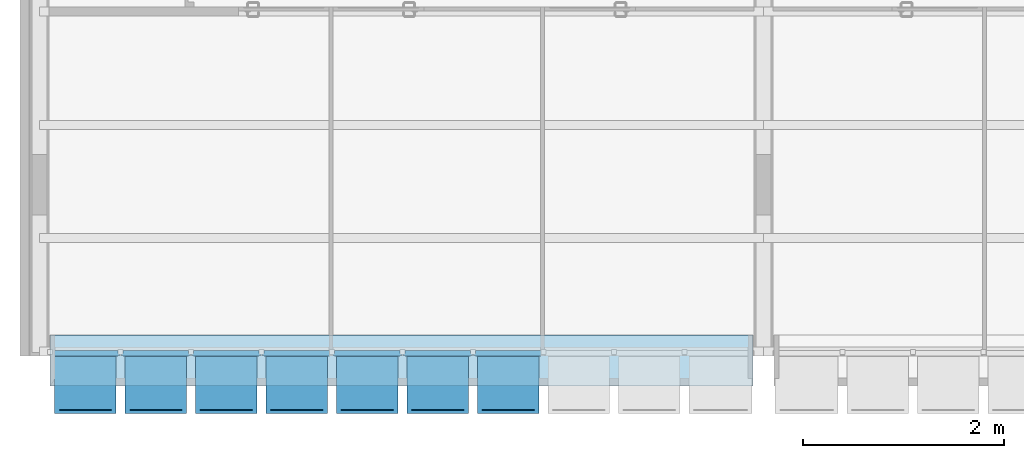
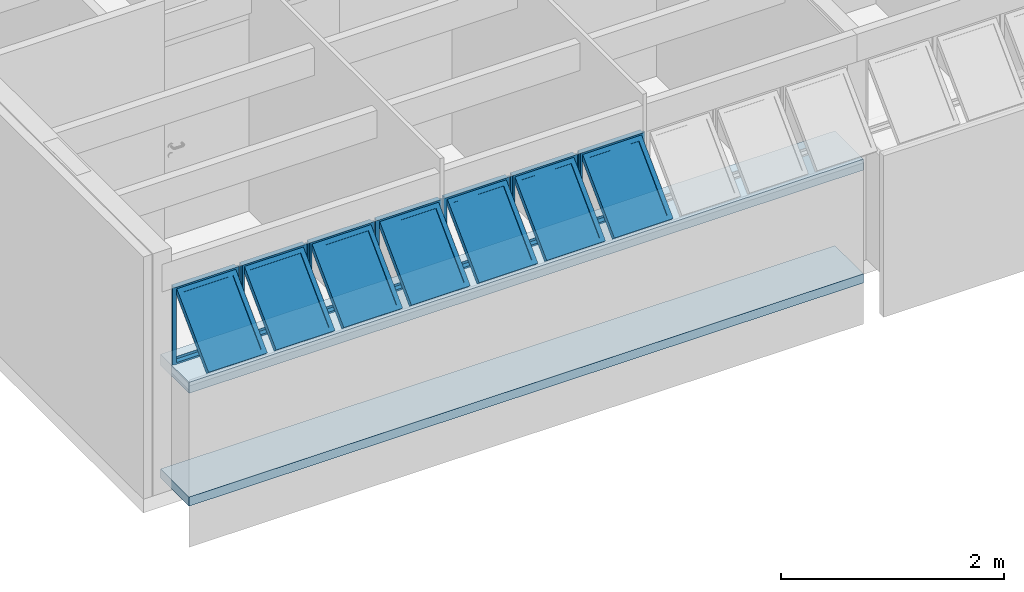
# One storey, part 4 of 40: 7 plates, 2 slabs, 1 element without a shape of its own.
"""IFC4 building model written with IfcOpenShell, lengths in millimetres."""

import ifcopenshell
import ifcopenshell.guid

model = None  # the IFC model being written
_history = None  # IfcOwnerHistory: only IFC2X3 demands one
_inside = {}  # id of a spatial element -> (the spatial element, [elements in it])
_under = {}  # id of a project, library or spatial element -> (it, [spatial elements below it])
_declared = {}  # id of a project -> (the project, [libraries it declares])
_typed = {}  # id of a type object -> (the type object, [elements of that type])
_made_of = {}  # id of a material, layer set ... -> (it, [elements and type objects made of it])


def new_model(schema):
    """Start an empty IFC model of exactly this schema.

    Asked for "IFC4X3", IfcOpenShell would pick the latest addendum, in which some entities
    have other attributes; the version numbers below select the first issue.
    IFC2X3 requires an IfcOwnerHistory on every rooted entity: one is made here for all.
    """
    global model, _history
    if schema == "IFC4X3":
        model = ifcopenshell.file(schema_version=(4, 3, 0, 0))
    else:
        model = ifcopenshell.file(schema=schema)
    _inside.clear()
    _under.clear()
    _declared.clear()
    _typed.clear()
    _made_of.clear()
    _history = None
    if model.schema == "IFC2X3":
        org = make("IfcOrganization", Name="unknown")
        user = make(
            "IfcPersonAndOrganization",
            ThePerson=make("IfcPerson", FamilyName="unknown"),
            TheOrganization=org,
        )
        app = make(
            "IfcApplication",
            ApplicationDeveloper=org,
            Version="unknown",
            ApplicationFullName="unknown",
            ApplicationIdentifier="unknown",
        )
        _history = make(
            "IfcOwnerHistory",
            OwningUser=user,
            OwningApplication=app,
            ChangeAction="ADDED",
            CreationDate=0,
        )
    return model


def make(cls, **values):
    """One entity of the class cls with the attributes given. An attribute that is None is left unset."""
    return model.create_entity(
        cls, **{name: value for name, value in values.items() if value is not None}
    )


def entity(cls, *values):
    """Any entity or typed value of the class cls, its attributes in the order of the schema. None: left unset."""
    e = model.create_entity(cls)
    for i, value in enumerate(values):
        if value is not None:
            e[i] = value
    return e


def rooted(cls, **values):
    """An entity with a GlobalId (a new one), such as an element, a storey or a relation."""
    return make(cls, GlobalId=ifcopenshell.guid.new(), OwnerHistory=_history, **values)


def si_unit(unit_type, name, prefix=None):
    """IfcSIUnit, for example si_unit("LENGTHUNIT", "METRE", prefix="MILLI")."""
    return make("IfcSIUnit", UnitType=unit_type, Prefix=prefix, Name=name)


def converted_unit(unit_type, name, factor, base, dimensions=None, offset=None):
    """IfcConversionBasedUnit, such as the inch: factor (a typed value) times the base unit."""
    return make(
        "IfcConversionBasedUnit"
        if offset is None
        else "IfcConversionBasedUnitWithOffset",
        ConversionOffset=offset,
        Dimensions=None
        if dimensions is None
        else entity("IfcDimensionalExponents", *dimensions),
        UnitType=unit_type,
        Name=name,
        ConversionFactor=make(
            "IfcMeasureWithUnit", ValueComponent=factor, UnitComponent=base
        ),
    )


def derived_unit(unit_type, elements):
    """IfcDerivedUnit: a product of units, each with its exponent."""
    return make(
        "IfcDerivedUnit",
        Elements=[
            make("IfcDerivedUnitElement", Unit=unit, Exponent=power)
            for unit, power in elements
        ],
        UnitType=unit_type,
    )


def assignment(units):
    """IfcUnitAssignment: the units of a project."""
    return None if units is None else make("IfcUnitAssignment", Units=units)


def point(xyz):
    """IfcCartesianPoint."""
    return None if xyz is None else make("IfcCartesianPoint", Coordinates=xyz)


def direction(xyz):
    """IfcDirection."""
    return None if xyz is None else make("IfcDirection", DirectionRatios=xyz)


def frame(location, z_axis=None, x_axis=None):
    """IfcAxis2Placement3D, a coordinate frame: its origin and axes. An axis left out is left unset."""
    return make(
        "IfcAxis2Placement3D",
        Location=point(location),
        Axis=direction(z_axis),
        RefDirection=direction(x_axis),
    )


def origin_with_axes():
    """The frame at (0, 0, 0) with the z axis (0, 0, 1) and the x axis (1, 0, 0) written out."""
    return frame((0.0, 0.0, 0.0), z_axis=(0.0, 0.0, 1.0), x_axis=(1.0, 0.0, 0.0))


def place(relative_to, where):
    """IfcLocalPlacement: puts the frame where relative to a parent placement (None: the world)."""
    return make(
        "IfcLocalPlacement", PlacementRelTo=relative_to, RelativePlacement=where
    )


def context(
    kind, dimensions, precision=None, world=None, true_north=None, identifier=None
):
    """IfcGeometricRepresentationContext, for example the 3D "Model" context."""
    return make(
        "IfcGeometricRepresentationContext",
        ContextIdentifier=identifier,
        ContextType=kind,
        CoordinateSpaceDimension=dimensions,
        Precision=precision,
        WorldCoordinateSystem=world,
        TrueNorth=true_north,
    )


def subcontext(parent, identifier, kind, view, scale=None):
    """IfcGeometricRepresentationSubContext, for example "Body" below "Model"."""
    return make(
        "IfcGeometricRepresentationSubContext",
        ContextIdentifier=identifier,
        ContextType=kind,
        ParentContext=parent,
        TargetScale=scale,
        TargetView=view,
    )


def project(units=None, contexts=None):
    """IfcProject with its units and contexts."""
    return rooted(
        "IfcProject",
        Name="project",
        RepresentationContexts=contexts,
        UnitsInContext=assignment(units),
    )


def spatial(cls, under=None, at=None, **own):
    """A site, building, storey or space (cls), placed at a placement, below another one or the project."""
    s = rooted(cls, ObjectPlacement=at, **own)
    if under is not None:
        _under.setdefault(under.id(), (under, []))[1].append(s)
    return s


def point_list(points):
    """IfcCartesianPointList2D or 3D."""
    cls = (
        "IfcCartesianPointList2D" if len(points[0]) == 2 else "IfcCartesianPointList3D"
    )
    return make(cls, CoordList=points)


def line(*indices):
    """IfcLineIndex: a straight run through numbered points of an indexed curve."""
    return model.create_entity("IfcLineIndex", indices)


def indexed_curve(points, segments=None, self_intersect=None):
    """IfcIndexedPolyCurve: lines and arcs through numbered points (the first is 1)."""
    return make(
        "IfcIndexedPolyCurve",
        Points=point_list(points),
        Segments=segments,
        SelfIntersect=self_intersect,
    )


def outline(outer, holes=None, kind="AREA"):
    """IfcArbitraryClosedProfileDef: a profile drawn as a closed curve; with holes, ...WithVoids."""
    if holes is None:
        return make("IfcArbitraryClosedProfileDef", ProfileType=kind, OuterCurve=outer)
    return make(
        "IfcArbitraryProfileDefWithVoids",
        ProfileType=kind,
        OuterCurve=outer,
        InnerCurves=holes,
    )


def extrude(swept, where, along, depth):
    """IfcExtrudedAreaSolid: the profile swept, set in the frame where, extruded along a direction by depth."""
    return make(
        "IfcExtrudedAreaSolid",
        SweptArea=swept,
        Position=where,
        ExtrudedDirection=direction(along),
        Depth=depth,
    )


def polygons(points, faces, closed=None, point_numbers=None):
    """IfcPolygonalFaceSet: a face is its outer loop, then its inner loops; points numbered from 1."""
    made = []
    for loops in faces:
        if len(loops) == 1:
            made.append(make("IfcIndexedPolygonalFace", CoordIndex=loops[0]))
        else:
            made.append(
                make(
                    "IfcIndexedPolygonalFaceWithVoids",
                    CoordIndex=loops[0],
                    InnerCoordIndices=loops[1:],
                )
            )
    return make(
        "IfcPolygonalFaceSet",
        Coordinates=point_list(points),
        Closed=closed,
        Faces=made,
        PnIndex=point_numbers,
    )


def shape(context_of_items, identifier, shape_type, items):
    """IfcShapeRepresentation: the items that make up one representation, for example the "Body"."""
    return make(
        "IfcShapeRepresentation",
        ContextOfItems=context_of_items,
        RepresentationIdentifier=identifier,
        RepresentationType=shape_type,
        Items=items,
    )


def source(mapping_origin, context_of_items, identifier, shape_type, items):
    """IfcRepresentationMap: a shape defined once, which mapped items show again and again."""
    return make(
        "IfcRepresentationMap",
        MappingOrigin=mapping_origin,
        MappedRepresentation=shape(context_of_items, identifier, shape_type, items),
    )


def transform(
    local_origin,
    x_axis=None,
    y_axis=None,
    z_axis=None,
    scale=None,
    scale2=None,
    scale3=None,
    uniform=True,
):
    """IfcCartesianTransformationOperator3D, or its non-uniform kind. x_axis, y_axis, z_axis: its Axis1, 2, 3."""
    if uniform:
        return make(
            "IfcCartesianTransformationOperator3D",
            Axis1=direction(x_axis),
            Axis2=direction(y_axis),
            LocalOrigin=point(local_origin),
            Scale=scale,
            Axis3=direction(z_axis),
        )
    return make(
        "IfcCartesianTransformationOperator3DnonUniform",
        Axis1=direction(x_axis),
        Axis2=direction(y_axis),
        LocalOrigin=point(local_origin),
        Scale=scale,
        Axis3=direction(z_axis),
        Scale2=scale2,
        Scale3=scale3,
    )


def mapped(mapping_source, mapping_target):
    """IfcMappedItem: shows the shape of a source again, moved by a transform."""
    return make(
        "IfcMappedItem", MappingSource=mapping_source, MappingTarget=mapping_target
    )


def material(Name=None, Category=None):
    """IfcMaterial."""
    return make("IfcMaterial", Name=Name, Category=Category)


def layer(
    of_material, thickness, ventilated=None, Name=None, Category=None, Priority=None
):
    """IfcMaterialLayer: one layer of a wall or slab, of a material (None: an air gap)."""
    return make(
        "IfcMaterialLayer",
        Material=of_material,
        LayerThickness=thickness,
        IsVentilated=ventilated,
        Name=Name,
        Category=Category,
        Priority=Priority,
    )


def layer_set(layers, Name=None):
    """IfcMaterialLayerSet."""
    return make("IfcMaterialLayerSet", MaterialLayers=layers, LayerSetName=Name)


def layer_usage(for_layer_set, set_direction, sense, offset, extent=None):
    """IfcMaterialLayerSetUsage: how a layer set lies in its element."""
    return make(
        "IfcMaterialLayerSetUsage",
        ForLayerSet=for_layer_set,
        LayerSetDirection=set_direction,
        DirectionSense=sense,
        OffsetFromReferenceLine=offset,
        ReferenceExtent=extent,
    )


def constituent(of_material, Name=None, Category=None, fraction=None):
    """IfcMaterialConstituent: one of the materials an element consists of."""
    return make(
        "IfcMaterialConstituent",
        Name=Name,
        Material=of_material,
        Fraction=fraction,
        Category=Category,
    )


def constituent_set(constituents=None, Name=None):
    """IfcMaterialConstituentSet."""
    return make(
        "IfcMaterialConstituentSet", Name=Name, MaterialConstituents=constituents
    )


def made_of(thing, what):
    """Note that an element or type object is made of a material, layer set ...; save() writes the relation."""
    if what is not None:
        _made_of.setdefault(what.id(), (what, []))[1].append(thing)
    return thing


def type_object(cls, material=None, **own):
    """A type object (cls), such as IfcWallType, which elements share."""
    return made_of(rooted(cls, **own), material)


def element(
    cls,
    number,
    at=None,
    inside=None,
    cuts=None,
    type_object=None,
    material=None,
    context=None,
    identifier="Body",
    shape_type=None,
    held_by="IfcProductDefinitionShape",
    body=None,
    shapes=None,
    **own,
):
    """One element of the class cls, such as IfcWall. Its Tag is "e" and its number.

    at: its placement. inside: the storey or other place that contains it. cuts: it is an
    opening in that element (IfcRelVoidsElement). A single representation is given by context,
    identifier, shape_type and body (its items); several are given by shapes. held_by: the class
    of the entity that holds the representations. save() writes the other relations.
    """
    e = rooted(cls, Tag="e%d" % number, ObjectPlacement=at, **own)
    if body is not None:
        shapes = [shape(context, identifier, shape_type, body)]
    if shapes is not None:
        e.Representation = make(held_by, Representations=shapes)
    if inside is not None:
        _inside.setdefault(inside.id(), (inside, []))[1].append(e)
    if cuts is not None:
        rooted(
            "IfcRelVoidsElement", RelatingBuildingElement=cuts, RelatedOpeningElement=e
        )
    if type_object is not None:
        _typed.setdefault(type_object.id(), (type_object, []))[1].append(e)
    return made_of(e, material)


def aggregate(whole, parts):
    """IfcRelAggregates: a whole, such as a stair, and the parts it consists of."""
    return rooted("IfcRelAggregates", RelatingObject=whole, RelatedObjects=parts)


def save(model, path):
    """Write the relations noted so far, then the file.

    IfcRelAggregates (storeys below a building ...), IfcRelContainedInSpatialStructure (elements
    in a storey), IfcRelDefinesByType, IfcRelAssociatesMaterial and IfcRelDeclares: one each for
    every whole, place, type object, material and project.
    """
    for whole, parts in _under.values():
        aggregate(whole, parts)
    for where, things in _inside.values():
        rooted(
            "IfcRelContainedInSpatialStructure",
            RelatedElements=things,
            RelatingStructure=where,
        )
    for kind, things in _typed.values():
        rooted("IfcRelDefinesByType", RelatedObjects=things, RelatingType=kind)
    for what, things in _made_of.values():
        rooted("IfcRelAssociatesMaterial", RelatedObjects=things, RelatingMaterial=what)
    for by, libraries in _declared.values():
        rooted("IfcRelDeclares", RelatingContext=by, RelatedDefinitions=libraries)
    model.write(path)


model = new_model("IFC4")

# Units and contexts
model_context = context("Model", 3, precision=0.01, world=origin_with_axes(), true_north=direction((0.0, 1.0)))
body_context = subcontext(model_context, "Body", "Model", "MODEL_VIEW")
ifc_project = project(units=[si_unit("LENGTHUNIT", "METRE", prefix="MILLI"), si_unit("AREAUNIT", "SQUARE_METRE"), si_unit("VOLUMEUNIT", "CUBIC_METRE"), converted_unit("PLANEANGLEUNIT", "DEGREE", entity("IfcPlaneAngleMeasure", 0.0174532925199), si_unit("PLANEANGLEUNIT", "RADIAN"), dimensions=[0, 0, 0, 0, 0, 0, 0]), converted_unit("TIMEUNIT", "Year", entity("IfcTimeMeasure", 31556926.0), si_unit("TIMEUNIT", "SECOND"), dimensions=[0, 0, 1, 0, 0, 0, 0]), si_unit("MASSUNIT", "GRAM", prefix="KILO"), si_unit("THERMODYNAMICTEMPERATUREUNIT", "DEGREE_CELSIUS"), si_unit("LUMINOUSINTENSITYUNIT", "LUMEN"), si_unit("ENERGYUNIT", "JOULE", prefix="MEGA"), derived_unit("THERMALCONDUCTANCEUNIT", [(si_unit("POWERUNIT", "WATT"), 1), (si_unit("LENGTHUNIT", "METRE"), -1), (si_unit("THERMODYNAMICTEMPERATUREUNIT", "KELVIN"), -1)]), derived_unit("SPECIFICHEATCAPACITYUNIT", [(si_unit("ENERGYUNIT", "JOULE"), 1), (si_unit("MASSUNIT", "GRAM", prefix="KILO"), -1), (si_unit("THERMODYNAMICTEMPERATUREUNIT", "KELVIN"), -1)]), derived_unit("MASSDENSITYUNIT", [(si_unit("MASSUNIT", "GRAM", prefix="KILO"), 1), (si_unit("VOLUMEUNIT", "CUBIC_METRE"), -1)])], contexts=[model_context])

# Site, building, storey
site_placement = place(None, origin_with_axes())
site = spatial("IfcSite", under=ifc_project, at=site_placement, Name="Local", CompositionType="ELEMENT")
building_placement = place(site_placement, origin_with_axes())
building = spatial("IfcBuilding", under=site, at=building_placement, Name="Construção", CompositionType="ELEMENT")
storey_placement = place(building_placement, origin_with_axes())
storey = spatial("IfcBuildingStorey", under=building, at=storey_placement, Name="Primeiro Pavimento", CompositionType="ELEMENT", Elevation=0.0)

# Slab
ifc_material_1 = material(Name="Concreto Armado Moldado in Loco - Estrutural")
ifc_layer_1 = layer(ifc_material_1, 120.0, ventilated="UNKNOWN", Name="Concreto Armado Moldado in Loco - Estrutural")
ifc_layer_set_1 = layer_set([ifc_layer_1], Name="Concreto Armado Moldado in Loco - Estrutural 120")
ifc_layer_usage_1 = layer_usage(ifc_layer_set_1, "AXIS3", "NEGATIVE", 120.0)
slab_type_1 = type_object("IfcSlabType", Name="Concreto Armado Moldado in Loco - Estrutural 120", PredefinedType="FLOOR")
slab_1_placement = place(storey_placement, frame((300.0, 0.0, 1355.0), z_axis=(0.0, 0.0, 1.0), x_axis=(1.0, 0.0, 0.0)))
element("IfcSlab", 1, at=slab_1_placement, inside=storey, type_object=slab_type_1, material=ifc_layer_usage_1, Name="APTO1-LAJE-002", PredefinedType="FLOOR", context=body_context, shape_type="SweptSolid", body=[
    extrude(outline(indexed_curve([(0.0, 0.0), (6980.0, 0.0), (6980.0, 510.0), (0.0, 510.0)], segments=[line(1, 2, 3, 4, 1)])), frame((0.0, 0.0, -120.0), z_axis=(0.0, 0.0, 1.0), x_axis=(1.0, 0.0, 0.0)), (0.0, 0.0, 1.0), 120.0),
])

# Window, plates
window_type = type_object("IfcWindowType", Name="Tipo de Parede Cortina", PartitioningType="NOTDEFINED", PredefinedType="NOTDEFINED")
window_placement = place(storey_placement, frame((294.999984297, 315.020977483, 1355.02054151), z_axis=(0.0, 0.0, 1.0), x_axis=(1.0, 0.0, 0.0)))
window = element("IfcWindow", 2, at=window_placement, inside=storey, type_object=window_type, Name="APTO1-JANELA-001", PredefinedType="NOTDEFINED")
ifc_material_2 = material(Name="Alumínio")
ifc_constituent_1 = constituent(ifc_material_2, Name="Alumínio")
ifc_material_3 = material(Name="Vidro")
ifc_constituent_2 = constituent(ifc_material_3, Name="Vidro")
ifc_constituent_set_1 = constituent_set(constituents=[ifc_constituent_1, ifc_constituent_2])
plate_type = type_object("IfcPlateType", Name="Painel Principal 690 x 845 x 20", PredefinedType="CURTAIN_PANEL")
shared_shape_1 = source(origin_with_axes(), body_context, "Body", "Tessellation", [
    polygons([(25.0000036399, 0.0, -40.0), (674.999997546, 0.0, -40.0), (674.999997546, 0.0, -35.0), (25.0000036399, 0.0, -35.0), (70.0000036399, 45.0, -40.0), (629.999997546, 45.0, -40.0), (629.999997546, 45.0, -35.0), (70.0000036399, 45.0, -35.0)], [[[1, 2, 3, 4]], [[1, 5, 6, 2]], [[2, 6, 7, 3]], [[4, 3, 7, 8]], [[5, 1, 4, 8]], [[6, 5, 8, 7]]], closed=True),
    polygons([(674.999997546, 0.0, -40.0), (674.999997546, 844.999891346, -40.0), (674.999997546, 844.999891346, -35.0), (674.999997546, 0.0, -35.0), (629.999997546, 45.0, -40.0), (629.999997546, 799.999891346, -40.0), (629.999997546, 799.999891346, -35.0), (629.999997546, 45.0, -35.0)], [[[1, 2, 3, 4]], [[1, 5, 6, 2]], [[2, 6, 7, 3]], [[4, 3, 7, 8]], [[5, 1, 4, 8]], [[6, 5, 8, 7]]], closed=True),
    polygons([(25.0000036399, 844.999891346, -40.0), (70.0000036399, 799.999891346, -40.0), (70.0000036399, 799.999891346, -35.0), (25.0000036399, 844.999891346, -35.0), (674.999997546, 844.999891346, -40.0), (629.999997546, 799.999891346, -40.0), (629.999997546, 799.999891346, -35.0), (674.999997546, 844.999891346, -35.0)], [[[1, 2, 3, 4]], [[1, 5, 6, 2]], [[2, 6, 7, 3]], [[4, 3, 7, 8]], [[5, 1, 4, 8]], [[6, 5, 8, 7]]], closed=True),
    polygons([(25.0000036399, 0.0, -40.0), (70.0000036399, 45.0, -40.0), (70.0000036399, 45.0, -35.0), (25.0000036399, 0.0, -35.0), (25.0000036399, 844.999891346, -40.0), (70.0000036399, 799.999891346, -40.0), (70.0000036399, 799.999891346, -35.0), (25.0000036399, 844.999891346, -35.0)], [[[1, 2, 3, 4]], [[1, 5, 6, 2]], [[2, 6, 7, 3]], [[4, 3, 7, 8]], [[5, 1, 4, 8]], [[6, 5, 8, 7]]], closed=True),
    polygons([(25.0000036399, 0.0, -35.0), (674.999997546, 0.0, -35.0), (674.999997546, 0.0, 15.0), (25.0000036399, 0.0, 15.0), (45.0000036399, 20.0, -35.0), (654.999997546, 20.0, -35.0), (654.999997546, 20.0, 15.0), (45.0000036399, 20.0, 15.0)], [[[1, 2, 3, 4]], [[1, 5, 6, 2]], [[2, 6, 7, 3]], [[4, 3, 7, 8]], [[5, 1, 4, 8]], [[6, 5, 8, 7]]], closed=True),
    polygons([(674.999997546, 0.0, -35.0), (674.999997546, 844.999891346, -35.0), (674.999997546, 844.999891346, 15.0), (674.999997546, 0.0, 15.0), (654.999997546, 20.0, -35.0), (654.999997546, 824.999891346, -35.0), (654.999997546, 824.999891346, 15.0), (654.999997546, 20.0, 15.0)], [[[1, 2, 3, 4]], [[1, 5, 6, 2]], [[2, 6, 7, 3]], [[4, 3, 7, 8]], [[5, 1, 4, 8]], [[6, 5, 8, 7]]], closed=True),
    polygons([(25.0000036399, 844.999891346, -35.0), (45.0000036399, 824.999891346, -35.0), (45.0000036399, 824.999891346, 15.0), (25.0000036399, 844.999891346, 15.0), (674.999997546, 844.999891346, -35.0), (654.999997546, 824.999891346, -35.0), (654.999997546, 824.999891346, 15.0), (674.999997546, 844.999891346, 15.0)], [[[1, 2, 3, 4]], [[1, 5, 6, 2]], [[2, 6, 7, 3]], [[4, 3, 7, 8]], [[5, 1, 4, 8]], [[6, 5, 8, 7]]], closed=True),
    polygons([(25.0000036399, 0.0, -35.0), (45.0000036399, 20.0, -35.0), (45.0000036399, 20.0, 15.0), (25.0000036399, 0.0, 15.0), (25.0000036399, 844.999891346, -35.0), (45.0000036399, 824.999891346, -35.0), (45.0000036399, 824.999891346, 15.0), (25.0000036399, 844.999891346, 15.0)], [[[1, 2, 3, 4]], [[1, 5, 6, 2]], [[2, 6, 7, 3]], [[4, 3, 7, 8]], [[5, 1, 4, 8]], [[6, 5, 8, 7]]], closed=True),
    polygons([(694.999995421, 0.0, -10.0), (694.999995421, 844.999891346, -10.0), (694.999995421, 844.999891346, 10.0), (694.999995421, 0.0, 10.0), (674.999997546, 0.0, -10.0), (674.999997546, 844.999891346, -10.0), (674.999997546, 844.999891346, 10.0), (674.999997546, 0.0, 10.0)], [[[1, 2, 3, 4]], [[1, 5, 6, 2]], [[2, 6, 7, 3]], [[4, 3, 7, 8]], [[5, 1, 4, 8]], [[6, 5, 8, 7]]], closed=True),
    polygons([(5.00000576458, 844.999891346, -10.0), (5.00000576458, 0.0, -10.0), (5.00000576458, 0.0, 10.0), (5.00000576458, 844.999891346, 10.0), (25.0000036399, 844.999891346, -10.0), (25.0000036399, 0.0, -10.0), (25.0000036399, 0.0, 10.0), (25.0000036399, 844.999891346, 10.0)], [[[1, 2, 3, 4]], [[1, 5, 6, 2]], [[2, 6, 7, 3]], [[4, 3, 7, 8]], [[5, 1, 4, 8]], [[6, 5, 8, 7]]], closed=True),
    polygons([(90.0000036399, 252.243475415, 517.045737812), (90.0000036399, 757.824747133, 11.4644660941), (90.0000036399, 796.715620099, 50.3553390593), (90.0000036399, 291.13434838, 555.936610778), (45.0000036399, 220.423670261, 548.865542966), (45.0000036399, 789.644552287, -20.3553390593), (45.0000036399, 828.535425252, 18.5355339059), (45.0000036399, 259.314543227, 587.756415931)], [[[1, 2, 3, 4]], [[1, 5, 6, 2]], [[2, 6, 7, 3]], [[4, 3, 7, 8]], [[5, 1, 4, 8]], [[6, 5, 8, 7]]], closed=True),
    polygons([(654.999997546, 220.423670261, 548.865542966), (654.999997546, 789.644552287, -20.3553390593), (654.999997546, 828.535425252, 18.5355339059), (654.999997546, 259.314543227, 587.756415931), (609.999997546, 252.243475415, 517.045737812), (609.999997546, 757.824747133, 11.4644660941), (609.999997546, 796.715620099, 50.3553390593), (609.999997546, 291.13434838, 555.936610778)], [[[1, 2, 3, 4]], [[1, 5, 6, 2]], [[2, 6, 7, 3]], [[4, 3, 7, 8]], [[5, 1, 4, 8]], [[6, 5, 8, 7]]], closed=True),
    polygons([(654.999997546, 220.423670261, 548.865542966), (609.999997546, 252.243475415, 517.045737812), (609.999997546, 291.13434838, 555.936610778), (654.999997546, 259.314543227, 587.756415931), (45.0000036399, 220.423670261, 548.865542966), (90.0000036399, 252.243475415, 517.045737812), (90.0000036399, 291.13434838, 555.936610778), (45.0000036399, 259.314543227, 587.756415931)], [[[1, 2, 3, 4]], [[1, 5, 6, 2]], [[2, 6, 7, 3]], [[4, 3, 7, 8]], [[5, 1, 4, 8]], [[6, 5, 8, 7]]], closed=True),
    polygons([(45.0000036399, 789.644552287, -20.3553390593), (90.0000036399, 757.824747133, 11.4644660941), (90.0000036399, 796.715620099, 50.3553390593), (45.0000036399, 828.535425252, 18.5355339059), (654.999997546, 789.644552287, -20.3553390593), (609.999997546, 757.824747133, 11.4644660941), (609.999997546, 796.715620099, 50.3553390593), (654.999997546, 828.535425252, 18.5355339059)], [[[1, 2, 3, 4]], [[1, 5, 6, 2]], [[2, 6, 7, 3]], [[4, 3, 7, 8]], [[5, 1, 4, 8]], [[6, 5, 8, 7]]], closed=True),
    polygons([(90.0000036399, 272.749572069, 537.551834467), (609.999997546, 272.749572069, 537.551834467), (609.999997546, 284.063280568, 548.865542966), (90.0000036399, 284.063280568, 548.865542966), (90.0000036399, 778.330843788, 31.9705627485), (609.999997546, 778.330843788, 31.9705627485), (609.999997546, 789.644552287, 43.2842712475), (90.0000036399, 789.644552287, 43.2842712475)], [[[1, 2, 3, 4]], [[1, 5, 6, 2]], [[2, 6, 7, 3]], [[4, 3, 7, 8]], [[5, 1, 4, 8]], [[6, 5, 8, 7]]], closed=True),
])
plate_1_placement = place(window_placement, frame((2455.0000157, 0.0, 422.499945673), z_axis=(0.0, 0.0, 1.0), x_axis=(-1.0, 0.0, 0.0)))
plate_1 = element("IfcPlate", 3, at=plate_1_placement, type_object=plate_type, material=ifc_constituent_set_1, Name="APTO1-Painel-Prin-013", PredefinedType="CURTAIN_PANEL", context=body_context, shape_type="MappedRepresentation", body=[
    mapped(shared_shape_1, transform((350.0, 0.0, -422.499945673), x_axis=(-1.0, 0.0, 0.0), y_axis=(0.0, 0.0, 1.0), z_axis=(0.0, 1.0, 0.0))),
])
ifc_constituent_3 = constituent(ifc_material_2, Name="Alumínio")
ifc_constituent_4 = constituent(ifc_material_3, Name="Vidro")
ifc_constituent_set_2 = constituent_set(constituents=[ifc_constituent_3, ifc_constituent_4])
plate_2_placement = place(window_placement, frame((4555.0000157, 0.0, 422.499945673), z_axis=(0.0, 0.0, 1.0), x_axis=(-1.0, 0.0, 0.0)))
plate_2 = element("IfcPlate", 4, at=plate_2_placement, type_object=plate_type, material=ifc_constituent_set_2, Name="APTO1-Painel-Prin-029", PredefinedType="CURTAIN_PANEL", context=body_context, shape_type="MappedRepresentation", body=[
    mapped(shared_shape_1, transform((350.0, 0.0, -422.499945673), x_axis=(-1.0, 0.0, 0.0), y_axis=(0.0, 0.0, 1.0), z_axis=(0.0, 1.0, 0.0))),
])
ifc_constituent_5 = constituent(ifc_material_2, Name="Alumínio")
ifc_constituent_6 = constituent(ifc_material_3, Name="Vidro")
ifc_constituent_set_3 = constituent_set(constituents=[ifc_constituent_5, ifc_constituent_6])
shared_shape_2 = source(origin_with_axes(), body_context, "Body", "Tessellation", [
    polygons([(25.0000036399, 0.0, -40.0), (674.999997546, 0.0, -40.0), (674.999997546, 0.0, -35.0), (25.0000036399, 0.0, -35.0), (70.0000036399, 45.0, -40.0), (629.999997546, 45.0, -40.0), (629.999997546, 45.0, -35.0), (70.0000036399, 45.0, -35.0)], [[[1, 2, 3, 4]], [[1, 5, 6, 2]], [[2, 6, 7, 3]], [[4, 3, 7, 8]], [[5, 1, 4, 8]], [[6, 5, 8, 7]]], closed=True),
    polygons([(674.999997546, 0.0, -40.0), (674.999997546, 844.999891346, -40.0), (674.999997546, 844.999891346, -35.0), (674.999997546, 0.0, -35.0), (629.999997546, 45.0, -40.0), (629.999997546, 799.999891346, -40.0), (629.999997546, 799.999891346, -35.0), (629.999997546, 45.0, -35.0)], [[[1, 2, 3, 4]], [[1, 5, 6, 2]], [[2, 6, 7, 3]], [[4, 3, 7, 8]], [[5, 1, 4, 8]], [[6, 5, 8, 7]]], closed=True),
    polygons([(25.0000036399, 844.999891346, -40.0), (70.0000036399, 799.999891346, -40.0), (70.0000036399, 799.999891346, -35.0), (25.0000036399, 844.999891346, -35.0), (674.999997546, 844.999891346, -40.0), (629.999997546, 799.999891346, -40.0), (629.999997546, 799.999891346, -35.0), (674.999997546, 844.999891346, -35.0)], [[[1, 2, 3, 4]], [[1, 5, 6, 2]], [[2, 6, 7, 3]], [[4, 3, 7, 8]], [[5, 1, 4, 8]], [[6, 5, 8, 7]]], closed=True),
    polygons([(25.0000036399, 0.0, -40.0), (70.0000036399, 45.0, -40.0), (70.0000036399, 45.0, -35.0), (25.0000036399, 0.0, -35.0), (25.0000036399, 844.999891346, -40.0), (70.0000036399, 799.999891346, -40.0), (70.0000036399, 799.999891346, -35.0), (25.0000036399, 844.999891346, -35.0)], [[[1, 2, 3, 4]], [[1, 5, 6, 2]], [[2, 6, 7, 3]], [[4, 3, 7, 8]], [[5, 1, 4, 8]], [[6, 5, 8, 7]]], closed=True),
    polygons([(25.0000036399, 0.0, -35.0), (674.999997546, 0.0, -35.0), (674.999997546, 0.0, 15.0), (25.0000036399, 0.0, 15.0), (45.0000036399, 20.0, -35.0), (654.999997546, 20.0, -35.0), (654.999997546, 20.0, 15.0), (45.0000036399, 20.0, 15.0)], [[[1, 2, 3, 4]], [[1, 5, 6, 2]], [[2, 6, 7, 3]], [[4, 3, 7, 8]], [[5, 1, 4, 8]], [[6, 5, 8, 7]]], closed=True),
    polygons([(674.999997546, 0.0, -35.0), (674.999997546, 844.999891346, -35.0), (674.999997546, 844.999891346, 15.0), (674.999997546, 0.0, 15.0), (654.999997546, 20.0, -35.0), (654.999997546, 824.999891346, -35.0), (654.999997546, 824.999891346, 15.0), (654.999997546, 20.0, 15.0)], [[[1, 2, 3, 4]], [[1, 5, 6, 2]], [[2, 6, 7, 3]], [[4, 3, 7, 8]], [[5, 1, 4, 8]], [[6, 5, 8, 7]]], closed=True),
    polygons([(25.0000036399, 844.999891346, -35.0), (45.0000036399, 824.999891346, -35.0), (45.0000036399, 824.999891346, 15.0), (25.0000036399, 844.999891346, 15.0), (674.999997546, 844.999891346, -35.0), (654.999997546, 824.999891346, -35.0), (654.999997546, 824.999891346, 15.0), (674.999997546, 844.999891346, 15.0)], [[[1, 2, 3, 4]], [[1, 5, 6, 2]], [[2, 6, 7, 3]], [[4, 3, 7, 8]], [[5, 1, 4, 8]], [[6, 5, 8, 7]]], closed=True),
    polygons([(25.0000036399, 0.0, -35.0), (45.0000036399, 20.0, -35.0), (45.0000036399, 20.0, 15.0), (25.0000036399, 0.0, 15.0), (25.0000036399, 844.999891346, -35.0), (45.0000036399, 824.999891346, -35.0), (45.0000036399, 824.999891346, 15.0), (25.0000036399, 844.999891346, 15.0)], [[[1, 2, 3, 4]], [[1, 5, 6, 2]], [[2, 6, 7, 3]], [[4, 3, 7, 8]], [[5, 1, 4, 8]], [[6, 5, 8, 7]]], closed=True),
    polygons([(694.999995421, 0.0, -10.0), (694.999995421, 844.999891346, -10.0), (694.999995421, 844.999891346, 10.0), (694.999995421, 0.0, 10.0), (674.999997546, 0.0, -10.0), (674.999997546, 844.999891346, -10.0), (674.999997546, 844.999891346, 10.0), (674.999997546, 0.0, 10.0)], [[[1, 2, 3, 4]], [[1, 5, 6, 2]], [[2, 6, 7, 3]], [[4, 3, 7, 8]], [[5, 1, 4, 8]], [[6, 5, 8, 7]]], closed=True),
    polygons([(5.00000576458, 844.999891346, -10.0), (5.00000576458, 0.0, -10.0), (5.00000576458, 0.0, 10.0), (5.00000576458, 844.999891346, 10.0), (25.0000036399, 844.999891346, -10.0), (25.0000036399, 0.0, -10.0), (25.0000036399, 0.0, 10.0), (25.0000036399, 844.999891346, 10.0)], [[[1, 2, 3, 4]], [[1, 5, 6, 2]], [[2, 6, 7, 3]], [[4, 3, 7, 8]], [[5, 1, 4, 8]], [[6, 5, 8, 7]]], closed=True),
    polygons([(90.0000036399, 252.243475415, 517.045737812), (90.0000036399, 757.824747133, 11.4644660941), (90.0000036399, 796.715620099, 50.3553390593), (90.0000036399, 291.13434838, 555.936610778), (45.0000036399, 220.423670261, 548.865542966), (45.0000036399, 789.644552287, -20.3553390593), (45.0000036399, 828.535425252, 18.5355339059), (45.0000036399, 259.314543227, 587.756415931)], [[[1, 2, 3, 4]], [[1, 5, 6, 2]], [[2, 6, 7, 3]], [[4, 3, 7, 8]], [[5, 1, 4, 8]], [[6, 5, 8, 7]]], closed=True),
    polygons([(654.999997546, 220.423670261, 548.865542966), (654.999997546, 789.644552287, -20.3553390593), (654.999997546, 828.535425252, 18.5355339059), (654.999997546, 259.314543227, 587.756415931), (609.999997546, 252.243475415, 517.045737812), (609.999997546, 757.824747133, 11.4644660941), (609.999997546, 796.715620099, 50.3553390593), (609.999997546, 291.13434838, 555.936610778)], [[[1, 2, 3, 4]], [[1, 5, 6, 2]], [[2, 6, 7, 3]], [[4, 3, 7, 8]], [[5, 1, 4, 8]], [[6, 5, 8, 7]]], closed=True),
    polygons([(654.999997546, 220.423670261, 548.865542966), (609.999997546, 252.243475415, 517.045737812), (609.999997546, 291.13434838, 555.936610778), (654.999997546, 259.314543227, 587.756415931), (45.0000036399, 220.423670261, 548.865542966), (90.0000036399, 252.243475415, 517.045737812), (90.0000036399, 291.13434838, 555.936610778), (45.0000036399, 259.314543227, 587.756415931)], [[[1, 2, 3, 4]], [[1, 5, 6, 2]], [[2, 6, 7, 3]], [[4, 3, 7, 8]], [[5, 1, 4, 8]], [[6, 5, 8, 7]]], closed=True),
    polygons([(45.0000036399, 789.644552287, -20.3553390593), (90.0000036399, 757.824747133, 11.4644660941), (90.0000036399, 796.715620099, 50.3553390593), (45.0000036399, 828.535425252, 18.5355339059), (654.999997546, 789.644552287, -20.3553390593), (609.999997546, 757.824747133, 11.4644660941), (609.999997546, 796.715620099, 50.3553390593), (654.999997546, 828.535425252, 18.5355339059)], [[[1, 2, 3, 4]], [[1, 5, 6, 2]], [[2, 6, 7, 3]], [[4, 3, 7, 8]], [[5, 1, 4, 8]], [[6, 5, 8, 7]]], closed=True),
    polygons([(90.0000036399, 272.749572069, 537.551834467), (609.999997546, 272.749572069, 537.551834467), (609.999997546, 284.063280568, 548.865542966), (90.0000036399, 284.063280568, 548.865542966), (90.0000036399, 778.330843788, 31.9705627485), (609.999997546, 778.330843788, 31.9705627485), (609.999997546, 789.644552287, 43.2842712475), (90.0000036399, 789.644552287, 43.2842712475)], [[[1, 2, 3, 4]], [[1, 5, 6, 2]], [[2, 6, 7, 3]], [[4, 3, 7, 8]], [[5, 1, 4, 8]], [[6, 5, 8, 7]]], closed=True),
])
plate_3_placement = place(window_placement, frame((3855.0000157, 0.0, 422.499945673), z_axis=(0.0, 0.0, 1.0), x_axis=(-1.0, 0.0, 0.0)))
plate_3 = element("IfcPlate", 5, at=plate_3_placement, type_object=plate_type, material=ifc_constituent_set_3, Name="APTO1-Painel-Prin-025", PredefinedType="CURTAIN_PANEL", context=body_context, shape_type="MappedRepresentation", body=[
    mapped(shared_shape_2, transform((350.0, 0.0, -422.499945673), x_axis=(-1.0, 0.0, 0.0), y_axis=(0.0, 0.0, 1.0), z_axis=(0.0, 1.0, 0.0))),
])
ifc_constituent_7 = constituent(ifc_material_2, Name="Alumínio")
ifc_constituent_8 = constituent(ifc_material_3, Name="Vidro")
ifc_constituent_set_4 = constituent_set(constituents=[ifc_constituent_7, ifc_constituent_8])
plate_4_placement = place(window_placement, frame((1055.0000157, 0.0, 422.499945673), z_axis=(0.0, 0.0, 1.0), x_axis=(-1.0, 0.0, 0.0)))
plate_4 = element("IfcPlate", 6, at=plate_4_placement, type_object=plate_type, material=ifc_constituent_set_4, Name="APTO1-Painel-Prin-013", PredefinedType="CURTAIN_PANEL", context=body_context, shape_type="MappedRepresentation", body=[
    mapped(shared_shape_2, transform((350.0, 0.0, -422.499945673), x_axis=(-1.0, 0.0, 0.0), y_axis=(0.0, 0.0, 1.0), z_axis=(0.0, 1.0, 0.0))),
])
ifc_constituent_9 = constituent(ifc_material_2, Name="Alumínio")
ifc_constituent_10 = constituent(ifc_material_3, Name="Vidro")
ifc_constituent_set_5 = constituent_set(constituents=[ifc_constituent_9, ifc_constituent_10])
plate_5_placement = place(window_placement, frame((355.000015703, 0.0, 422.499945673), z_axis=(0.0, 0.0, 1.0), x_axis=(-1.0, 0.0, 0.0)))
plate_5 = element("IfcPlate", 7, at=plate_5_placement, type_object=plate_type, material=ifc_constituent_set_5, Name="APTO1-Painel-Prin-013", PredefinedType="CURTAIN_PANEL", context=body_context, shape_type="MappedRepresentation", body=[
    mapped(shared_shape_2, transform((350.0, 0.0, -422.499945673), x_axis=(-1.0, 0.0, 0.0), y_axis=(0.0, 0.0, 1.0), z_axis=(0.0, 1.0, 0.0))),
])
ifc_constituent_11 = constituent(ifc_material_2, Name="Alumínio")
ifc_constituent_12 = constituent(ifc_material_3, Name="Vidro")
ifc_constituent_set_6 = constituent_set(constituents=[ifc_constituent_11, ifc_constituent_12])
shared_shape_3 = source(origin_with_axes(), body_context, "Body", "Tessellation", [
    polygons([(25.0000036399, 0.0, -40.0), (674.999997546, 0.0, -40.0), (674.999997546, 0.0, -35.0), (25.0000036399, 0.0, -35.0), (70.0000036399, 45.0, -40.0), (629.999997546, 45.0, -40.0), (629.999997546, 45.0, -35.0), (70.0000036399, 45.0, -35.0)], [[[1, 2, 3, 4]], [[1, 5, 6, 2]], [[2, 6, 7, 3]], [[4, 3, 7, 8]], [[5, 1, 4, 8]], [[6, 5, 8, 7]]], closed=True),
    polygons([(674.999997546, 0.0, -40.0), (674.999997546, 844.999891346, -40.0), (674.999997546, 844.999891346, -35.0), (674.999997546, 0.0, -35.0), (629.999997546, 45.0, -40.0), (629.999997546, 799.999891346, -40.0), (629.999997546, 799.999891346, -35.0), (629.999997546, 45.0, -35.0)], [[[1, 2, 3, 4]], [[1, 5, 6, 2]], [[2, 6, 7, 3]], [[4, 3, 7, 8]], [[5, 1, 4, 8]], [[6, 5, 8, 7]]], closed=True),
    polygons([(25.0000036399, 844.999891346, -40.0), (70.0000036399, 799.999891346, -40.0), (70.0000036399, 799.999891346, -35.0), (25.0000036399, 844.999891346, -35.0), (674.999997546, 844.999891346, -40.0), (629.999997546, 799.999891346, -40.0), (629.999997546, 799.999891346, -35.0), (674.999997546, 844.999891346, -35.0)], [[[1, 2, 3, 4]], [[1, 5, 6, 2]], [[2, 6, 7, 3]], [[4, 3, 7, 8]], [[5, 1, 4, 8]], [[6, 5, 8, 7]]], closed=True),
    polygons([(25.0000036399, 0.0, -40.0), (70.0000036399, 45.0, -40.0), (70.0000036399, 45.0, -35.0), (25.0000036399, 0.0, -35.0), (25.0000036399, 844.999891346, -40.0), (70.0000036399, 799.999891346, -40.0), (70.0000036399, 799.999891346, -35.0), (25.0000036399, 844.999891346, -35.0)], [[[1, 2, 3, 4]], [[1, 5, 6, 2]], [[2, 6, 7, 3]], [[4, 3, 7, 8]], [[5, 1, 4, 8]], [[6, 5, 8, 7]]], closed=True),
    polygons([(25.0000036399, 0.0, -35.0), (674.999997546, 0.0, -35.0), (674.999997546, 0.0, 15.0), (25.0000036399, 0.0, 15.0), (45.0000036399, 20.0, -35.0), (654.999997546, 20.0, -35.0), (654.999997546, 20.0, 15.0), (45.0000036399, 20.0, 15.0)], [[[1, 2, 3, 4]], [[1, 5, 6, 2]], [[2, 6, 7, 3]], [[4, 3, 7, 8]], [[5, 1, 4, 8]], [[6, 5, 8, 7]]], closed=True),
    polygons([(674.999997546, 0.0, -35.0), (674.999997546, 844.999891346, -35.0), (674.999997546, 844.999891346, 15.0), (674.999997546, 0.0, 15.0), (654.999997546, 20.0, -35.0), (654.999997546, 824.999891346, -35.0), (654.999997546, 824.999891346, 15.0), (654.999997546, 20.0, 15.0)], [[[1, 2, 3, 4]], [[1, 5, 6, 2]], [[2, 6, 7, 3]], [[4, 3, 7, 8]], [[5, 1, 4, 8]], [[6, 5, 8, 7]]], closed=True),
    polygons([(25.0000036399, 844.999891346, -35.0), (45.0000036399, 824.999891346, -35.0), (45.0000036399, 824.999891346, 15.0), (25.0000036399, 844.999891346, 15.0), (674.999997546, 844.999891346, -35.0), (654.999997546, 824.999891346, -35.0), (654.999997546, 824.999891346, 15.0), (674.999997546, 844.999891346, 15.0)], [[[1, 2, 3, 4]], [[1, 5, 6, 2]], [[2, 6, 7, 3]], [[4, 3, 7, 8]], [[5, 1, 4, 8]], [[6, 5, 8, 7]]], closed=True),
    polygons([(25.0000036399, 0.0, -35.0), (45.0000036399, 20.0, -35.0), (45.0000036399, 20.0, 15.0), (25.0000036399, 0.0, 15.0), (25.0000036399, 844.999891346, -35.0), (45.0000036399, 824.999891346, -35.0), (45.0000036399, 824.999891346, 15.0), (25.0000036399, 844.999891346, 15.0)], [[[1, 2, 3, 4]], [[1, 5, 6, 2]], [[2, 6, 7, 3]], [[4, 3, 7, 8]], [[5, 1, 4, 8]], [[6, 5, 8, 7]]], closed=True),
    polygons([(694.999995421, 0.0, -10.0), (694.999995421, 844.999891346, -10.0), (694.999995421, 844.999891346, 10.0), (694.999995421, 0.0, 10.0), (674.999997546, 0.0, -10.0), (674.999997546, 844.999891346, -10.0), (674.999997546, 844.999891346, 10.0), (674.999997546, 0.0, 10.0)], [[[1, 2, 3, 4]], [[1, 5, 6, 2]], [[2, 6, 7, 3]], [[4, 3, 7, 8]], [[5, 1, 4, 8]], [[6, 5, 8, 7]]], closed=True),
    polygons([(5.00000576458, 844.999891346, -10.0), (5.00000576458, 0.0, -10.0), (5.00000576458, 0.0, 10.0), (5.00000576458, 844.999891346, 10.0), (25.0000036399, 844.999891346, -10.0), (25.0000036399, 0.0, -10.0), (25.0000036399, 0.0, 10.0), (25.0000036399, 844.999891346, 10.0)], [[[1, 2, 3, 4]], [[1, 5, 6, 2]], [[2, 6, 7, 3]], [[4, 3, 7, 8]], [[5, 1, 4, 8]], [[6, 5, 8, 7]]], closed=True),
    polygons([(90.0000036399, 252.243475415, 517.045737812), (90.0000036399, 757.824747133, 11.4644660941), (90.0000036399, 796.715620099, 50.3553390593), (90.0000036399, 291.13434838, 555.936610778), (45.0000036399, 220.423670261, 548.865542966), (45.0000036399, 789.644552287, -20.3553390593), (45.0000036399, 828.535425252, 18.5355339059), (45.0000036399, 259.314543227, 587.756415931)], [[[1, 2, 3, 4]], [[1, 5, 6, 2]], [[2, 6, 7, 3]], [[4, 3, 7, 8]], [[5, 1, 4, 8]], [[6, 5, 8, 7]]], closed=True),
    polygons([(654.999997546, 220.423670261, 548.865542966), (654.999997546, 789.644552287, -20.3553390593), (654.999997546, 828.535425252, 18.5355339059), (654.999997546, 259.314543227, 587.756415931), (609.999997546, 252.243475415, 517.045737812), (609.999997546, 757.824747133, 11.4644660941), (609.999997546, 796.715620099, 50.3553390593), (609.999997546, 291.13434838, 555.936610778)], [[[1, 2, 3, 4]], [[1, 5, 6, 2]], [[2, 6, 7, 3]], [[4, 3, 7, 8]], [[5, 1, 4, 8]], [[6, 5, 8, 7]]], closed=True),
    polygons([(654.999997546, 220.423670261, 548.865542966), (609.999997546, 252.243475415, 517.045737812), (609.999997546, 291.13434838, 555.936610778), (654.999997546, 259.314543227, 587.756415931), (45.0000036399, 220.423670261, 548.865542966), (90.0000036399, 252.243475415, 517.045737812), (90.0000036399, 291.13434838, 555.936610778), (45.0000036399, 259.314543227, 587.756415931)], [[[1, 2, 3, 4]], [[1, 5, 6, 2]], [[2, 6, 7, 3]], [[4, 3, 7, 8]], [[5, 1, 4, 8]], [[6, 5, 8, 7]]], closed=True),
    polygons([(45.0000036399, 789.644552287, -20.3553390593), (90.0000036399, 757.824747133, 11.4644660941), (90.0000036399, 796.715620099, 50.3553390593), (45.0000036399, 828.535425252, 18.5355339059), (654.999997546, 789.644552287, -20.3553390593), (609.999997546, 757.824747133, 11.4644660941), (609.999997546, 796.715620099, 50.3553390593), (654.999997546, 828.535425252, 18.5355339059)], [[[1, 2, 3, 4]], [[1, 5, 6, 2]], [[2, 6, 7, 3]], [[4, 3, 7, 8]], [[5, 1, 4, 8]], [[6, 5, 8, 7]]], closed=True),
    polygons([(90.0000036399, 272.749572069, 537.551834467), (609.999997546, 272.749572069, 537.551834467), (609.999997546, 284.063280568, 548.865542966), (90.0000036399, 284.063280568, 548.865542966), (90.0000036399, 778.330843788, 31.9705627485), (609.999997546, 778.330843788, 31.9705627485), (609.999997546, 789.644552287, 43.2842712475), (90.0000036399, 789.644552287, 43.2842712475)], [[[1, 2, 3, 4]], [[1, 5, 6, 2]], [[2, 6, 7, 3]], [[4, 3, 7, 8]], [[5, 1, 4, 8]], [[6, 5, 8, 7]]], closed=True),
])
plate_6_placement = place(window_placement, frame((1755.0000157, 0.0, 422.499945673), z_axis=(0.0, 0.0, 1.0), x_axis=(-1.0, 0.0, 0.0)))
plate_6 = element("IfcPlate", 8, at=plate_6_placement, type_object=plate_type, material=ifc_constituent_set_6, Name="APTO1-Painel-Prin-013", PredefinedType="CURTAIN_PANEL", context=body_context, shape_type="MappedRepresentation", body=[
    mapped(shared_shape_3, transform((350.0, 0.0, -422.499945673), x_axis=(-1.0, 0.0, 0.0), y_axis=(0.0, 0.0, 1.0), z_axis=(0.0, 1.0, 0.0))),
])
ifc_constituent_13 = constituent(ifc_material_2, Name="Alumínio")
ifc_constituent_14 = constituent(ifc_material_3, Name="Vidro")
ifc_constituent_set_7 = constituent_set(constituents=[ifc_constituent_13, ifc_constituent_14])
plate_7_placement = place(window_placement, frame((3155.0000157, 0.0, 422.499945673), z_axis=(0.0, 0.0, 1.0), x_axis=(-1.0, 0.0, 0.0)))
plate_7 = element("IfcPlate", 9, at=plate_7_placement, type_object=plate_type, material=ifc_constituent_set_7, Name="APTO1-Painel-Prin-013", PredefinedType="CURTAIN_PANEL", context=body_context, shape_type="MappedRepresentation", body=[
    mapped(shared_shape_3, transform((350.0, 0.0, -422.499945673), x_axis=(-1.0, 0.0, 0.0), y_axis=(0.0, 0.0, 1.0), z_axis=(0.0, 1.0, 0.0))),
])
aggregate(window, [plate_1, plate_2, plate_6, plate_3, plate_7, plate_4, plate_5])

# Slab
ifc_layer_2 = layer(ifc_material_1, 100.0, ventilated="UNKNOWN", Name="Concreto Armado Moldado in Loco - Estrutural")
ifc_layer_set_2 = layer_set([ifc_layer_2], Name="Concreto Armado Moldado in Loco - Estrutural 100")
ifc_layer_usage_2 = layer_usage(ifc_layer_set_2, "AXIS3", "NEGATIVE", 100.0)
slab_type_2 = type_object("IfcSlabType", Name="Concreto Armado Moldado in Loco - Estrutural 100", PredefinedType="FLOOR")
slab_2_placement = place(storey_placement, frame((300.0, 0.0, 100.0), z_axis=(0.0, 0.0, 1.0), x_axis=(1.0, 0.0, 0.0)))
element("IfcSlab", 10, at=slab_2_placement, inside=storey, type_object=slab_type_2, material=ifc_layer_usage_2, Name="APTO1-LAJE-001", PredefinedType="FLOOR", context=body_context, shape_type="SweptSolid", body=[
    extrude(outline(indexed_curve([(0.0, 0.0), (6980.0, 0.0), (6980.0, 510.0), (0.0, 510.0)], segments=[line(1, 2, 3, 4, 1)])), frame((0.0, 0.0, -100.0), z_axis=(0.0, 0.0, 1.0), x_axis=(1.0, 0.0, 0.0)), (0.0, 0.0, 1.0), 100.0),
])

save(model, "model.ifc")
